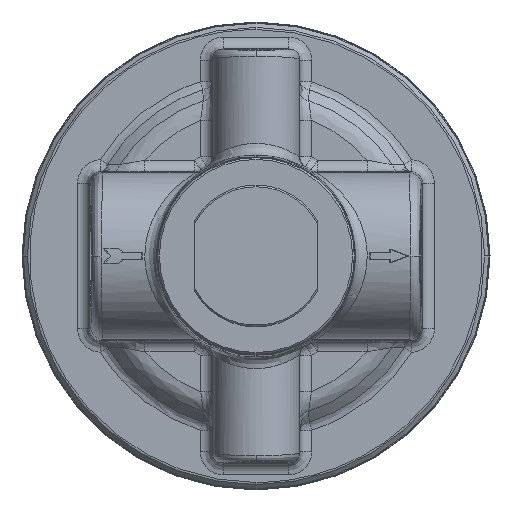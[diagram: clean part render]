
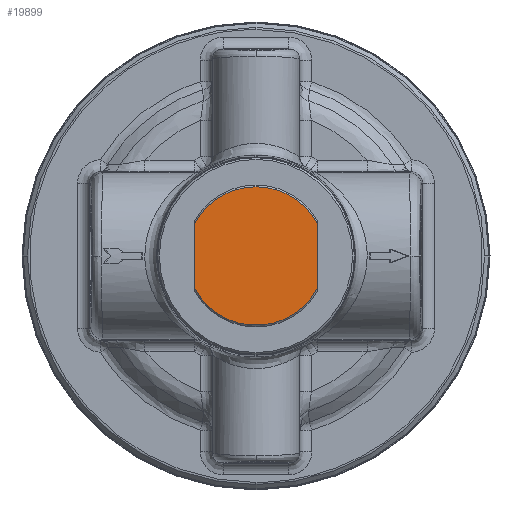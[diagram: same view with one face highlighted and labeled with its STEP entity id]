
A CAD part, front view. The second image highlights one B-rep face of the part: STEP entity #19899.
In plain terms, the highlighted planar face has unit normal (0, -1, 0).
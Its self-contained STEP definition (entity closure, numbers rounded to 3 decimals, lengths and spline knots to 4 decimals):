
#1240 = CARTESIAN_POINT ( 'NONE',  ( 0.62, -2.792, -0.3244 ) ) ;
#5816 = AXIS2_PLACEMENT_3D ( 'NONE', #27127, #27133, #27134 ) ;
#7568 = CARTESIAN_POINT ( 'NONE',  ( -0.62, -2.792, 0.3244 ) ) ;
#7990 = CARTESIAN_POINT ( 'NONE',  ( 0., -2.792, 0.6998 ) ) ;
#11553 = EDGE_LOOP ( 'NONE', ( #45590, #45588, #45586, #45584, #45582 ) ) ;
#17482 = CARTESIAN_POINT ( 'NONE',  ( 0., -2.792, 0. ) ) ;
#17483 = DIRECTION ( 'NONE',  ( 0., 1., 0. ) ) ;
#17484 = DIRECTION ( 'NONE',  ( 0., 0., 1. ) ) ;
#17566 = VERTEX_POINT ( 'NONE', #1240 ) ;
#17799 = VERTEX_POINT ( 'NONE', #27979 ) ;
#19899 = ADVANCED_FACE ( 'NONE', ( #27129 ), #27130, .F. ) ;
#21273 = LINE ( 'NONE', #21285, #23576 ) ;
#21285 = CARTESIAN_POINT ( 'NONE',  ( 0.62, -2.792, 1. ) ) ;
#21289 = DIRECTION ( 'NONE',  ( 0., 0., 1. ) ) ;
#21302 = LINE ( 'NONE', #21312, #23575 ) ;
#21304 = CARTESIAN_POINT ( 'NONE',  ( 0., -2.792, 0. ) ) ;
#21305 = DIRECTION ( 'NONE',  ( 0., 1., 0. ) ) ;
#21307 = DIRECTION ( 'NONE',  ( 0., 0., 1. ) ) ;
#21312 = CARTESIAN_POINT ( 'NONE',  ( -0.62, -2.792, 1. ) ) ;
#21316 = DIRECTION ( 'NONE',  ( 0., 0., 1. ) ) ;
#21355 = CARTESIAN_POINT ( 'NONE',  ( 0., -2.792, 0. ) ) ;
#21357 = DIRECTION ( 'NONE',  ( 0., 1., 0. ) ) ;
#21359 = DIRECTION ( 'NONE',  ( 0., 0., 1. ) ) ;
#23240 = AXIS2_PLACEMENT_3D ( 'NONE', #21355, #21357, #21359 ) ;
#23568 = CIRCLE ( 'NONE', #23240, 0.6998 ) ;
#23571 = AXIS2_PLACEMENT_3D ( 'NONE', #21304, #21305, #21307 ) ;
#23574 = CIRCLE ( 'NONE', #23571, 0.6998 ) ;
#23575 = VECTOR ( 'NONE', #21316, 39.3701 ) ;
#23576 = VECTOR ( 'NONE', #21289, 39.3701 ) ;
#27127 = CARTESIAN_POINT ( 'NONE',  ( 0., -2.792, 0. ) ) ;
#27129 = FACE_OUTER_BOUND ( 'NONE', #11553, .T. ) ;
#27130 = PLANE ( 'NONE',  #5816 ) ;
#27133 = DIRECTION ( 'NONE',  ( 0., 1., 0. ) ) ;
#27134 = DIRECTION ( 'NONE',  ( -1., 0., 0. ) ) ;
#27979 = CARTESIAN_POINT ( 'NONE',  ( -0.62, -2.792, -0.3244 ) ) ;
#32756 = EDGE_CURVE ( 'NONE', #17566, #42125, #21273, .T. ) ;
#32758 = EDGE_CURVE ( 'NONE', #17566, #17799, #23574, .T. ) ;
#32760 = EDGE_CURVE ( 'NONE', #17799, #41538, #21302, .T. ) ;
#32766 = EDGE_CURVE ( 'NONE', #41960, #42125, #23568, .T. ) ;
#33289 = EDGE_CURVE ( 'NONE', #41538, #41960, #39849, .T. ) ;
#39845 = AXIS2_PLACEMENT_3D ( 'NONE', #17482, #17483, #17484 ) ;
#39849 = CIRCLE ( 'NONE', #39845, 0.6998 ) ;
#41538 = VERTEX_POINT ( 'NONE', #7568 ) ;
#41960 = VERTEX_POINT ( 'NONE', #7990 ) ;
#42125 = VERTEX_POINT ( 'NONE', #46600 ) ;
#45582 = ORIENTED_EDGE ( 'NONE', *, *, #32766, .F. ) ;
#45584 = ORIENTED_EDGE ( 'NONE', *, *, #32756, .T. ) ;
#45586 = ORIENTED_EDGE ( 'NONE', *, *, #32758, .F. ) ;
#45588 = ORIENTED_EDGE ( 'NONE', *, *, #32760, .F. ) ;
#45590 = ORIENTED_EDGE ( 'NONE', *, *, #33289, .F. ) ;
#46600 = CARTESIAN_POINT ( 'NONE',  ( 0.62, -2.792, 0.3244 ) ) ;
